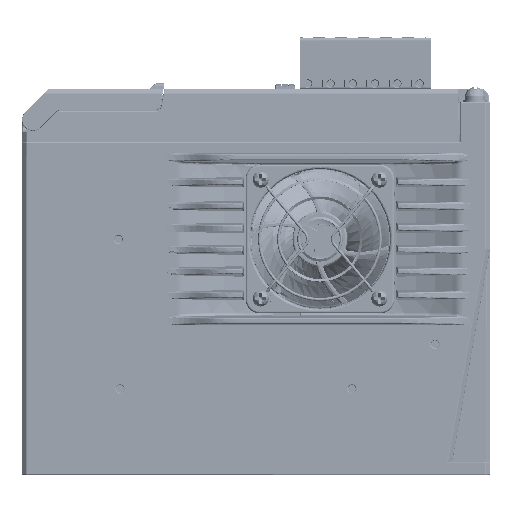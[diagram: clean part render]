
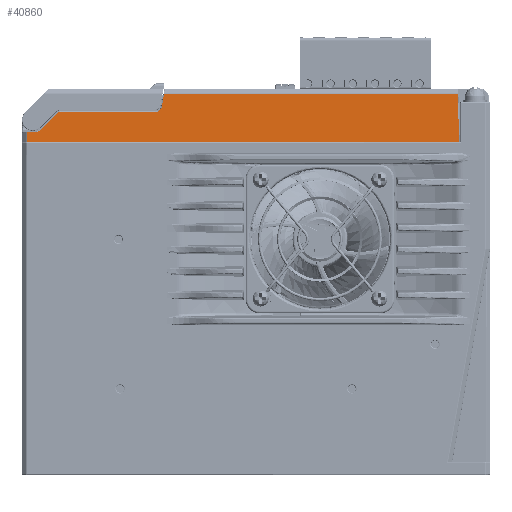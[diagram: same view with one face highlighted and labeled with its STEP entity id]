
A CAD part, left-side view. The second image highlights one B-rep face of the part: STEP entity #40860.
In plain terms, the highlighted planar face has unit normal (-1, 0, 0.026).
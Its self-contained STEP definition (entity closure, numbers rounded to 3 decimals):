
#8912 = ORIENTED_EDGE ( 'NONE', *, *, #106179, .F. ) ;
#9690 = DIRECTION ( 'NONE',  ( 0., -1., 0. ) ) ;
#12264 = CARTESIAN_POINT ( 'NONE',  ( -26.727, 32.851, 57.426 ) ) ;
#15686 = CARTESIAN_POINT ( 'NONE',  ( -26.733, 65.774, 57.205 ) ) ;
#17641 = VECTOR ( 'NONE', #197581, 1000. ) ;
#17929 = EDGE_CURVE ( 'NONE', #179877, #85501, #36177, .T. ) ;
#21272 = DIRECTION ( 'NONE',  ( 1., 0., -0.026 ) ) ;
#21342 = VERTEX_POINT ( 'NONE', #15686 ) ;
#21697 = CARTESIAN_POINT ( 'NONE',  ( -26.894, 72.678, 51.046 ) ) ;
#22021 = CARTESIAN_POINT ( 'NONE',  ( -26.97, 77.096, 48.134 ) ) ;
#25344 = B_SPLINE_CURVE_WITH_KNOTS ( 'NONE', 3,
 ( #165408, #122587, #208192, #80755 ),
 .UNSPECIFIED., .F., .F.,
 ( 4, 4 ),
 ( 0., 1. ),
 .UNSPECIFIED. ) ;
#28234 = B_SPLINE_CURVE_WITH_KNOTS ( 'NONE', 3,
 ( #21697, #43076, #170328, #64307 ),
 .UNSPECIFIED., .F., .F.,
 ( 4, 4 ),
 ( 0., 1. ),
 .UNSPECIFIED. ) ;
#28334 = ORIENTED_EDGE ( 'NONE', *, *, #79251, .T. ) ;
#31622 = CARTESIAN_POINT ( 'NONE',  ( -26.714, -68.064, 57.919 ) ) ;
#33643 = CARTESIAN_POINT ( 'NONE',  ( -26.715, 32.234, 57.885 ) ) ;
#36177 = B_SPLINE_CURVE_WITH_KNOTS ( 'NONE', 3,
 ( #96776, #266805, #222318, #12264, #160893, #33643, #182280, #54930, #203689, #76243 ),
 .UNSPECIFIED., .F., .F.,
 ( 4, 2, 2, 2, 4 ),
 ( 0., 0.25, 0.5, 0.75, 1. ),
 .UNSPECIFIED. ) ;
#38591 = CARTESIAN_POINT ( 'NONE',  ( -26.911, 74.234, 50.402 ) ) ;
#40860 = ADVANCED_FACE ( 'NONE', ( #225650 ), #148499, .F. ) ;
#43076 = CARTESIAN_POINT ( 'NONE',  ( -26.845, 70.801, 52.924 ) ) ;
#45972 = CARTESIAN_POINT ( 'NONE',  ( -26.571, 4.388, 63.379 ) ) ;
#47950 = CARTESIAN_POINT ( 'NONE',  ( -26.911, 4.388, 50.402 ) ) ;
#54930 = CARTESIAN_POINT ( 'NONE',  ( -26.698, 31.811, 58.527 ) ) ;
#60625 = ORIENTED_EDGE ( 'NONE', *, *, #152101, .F. ) ;
#64307 = CARTESIAN_POINT ( 'NONE',  ( -26.747, 67.046, 56.678 ) ) ;
#64615 = CARTESIAN_POINT ( 'NONE',  ( -26.941, 77.066, 49.268 ) ) ;
#74049 = LINE ( 'NONE', #47950, #17641 ) ;
#74188 = CARTESIAN_POINT ( 'NONE',  ( -27., -68.35, 47. ) ) ;
#76243 = CARTESIAN_POINT ( 'NONE',  ( -26.685, 31.678, 59.023 ) ) ;
#79251 = EDGE_CURVE ( 'NONE', #161984, #120466, #135587, .T. ) ;
#80755 = CARTESIAN_POINT ( 'NONE',  ( -26.571, 30.91, 63.379 ) ) ;
#81574 =( BOUNDED_CURVE ( )  B_SPLINE_CURVE ( 3, ( #214251, #108251, #256916, #129553 ),
 .UNSPECIFIED., .F., .F. ) 
 B_SPLINE_CURVE_WITH_KNOTS ( ( 4, 4 ),
 ( 0., 1. ),
 .UNSPECIFIED. ) 
 CURVE ( )  GEOMETRIC_REPRESENTATION_ITEM ( )  RATIONAL_B_SPLINE_CURVE ( ( 1., 0.949, 0.949, 1. ) ) 
 REPRESENTATION_ITEM ( '' )  );
#83600 = ORIENTED_EDGE ( 'NONE', *, *, #237162, .F. ) ;
#84934 = EDGE_CURVE ( 'NONE', #171905, #273305, #28234, .T. ) ;
#85501 = VERTEX_POINT ( 'NONE', #167415 ) ;
#85767 = VECTOR ( 'NONE', #9690, 1000. ) ;
#87626 = ORIENTED_EDGE ( 'NONE', *, *, #84934, .F. ) ;
#87708 = CARTESIAN_POINT ( 'NONE',  ( -27., -68.35, 47. ) ) ;
#96375 = EDGE_CURVE ( 'NONE', #161984, #233753, #206375, .T. ) ;
#96776 = CARTESIAN_POINT ( 'NONE',  ( -26.733, 33.844, 57.205 ) ) ;
#102635 = CARTESIAN_POINT ( 'NONE',  ( -26.909, 73.658, 50.459 ) ) ;
#106179 = EDGE_CURVE ( 'NONE', #273305, #21342, #81574, .T. ) ;
#108251 = CARTESIAN_POINT ( 'NONE',  ( -26.738, 66.704, 57.02 ) ) ;
#110778 = ORIENTED_EDGE ( 'NONE', *, *, #17929, .F. ) ;
#113403 = CARTESIAN_POINT ( 'NONE',  ( -26.733, 33.844, 57.205 ) ) ;
#116108 = CARTESIAN_POINT ( 'NONE',  ( -26.571, -67.921, 63.379 ) ) ;
#120466 = VERTEX_POINT ( 'NONE', #87708 ) ;
#122587 = CARTESIAN_POINT ( 'NONE',  ( -26.647, 31.422, 60.475 ) ) ;
#123012 = CARTESIAN_POINT ( 'NONE',  ( -26.911, 73.946, 50.402 ) ) ;
#123922 = CARTESIAN_POINT ( 'NONE',  ( -26.899, 72.882, 50.843 ) ) ;
#127513 = CARTESIAN_POINT ( 'NONE',  ( -26.571, 30.91, 63.379 ) ) ;
#127857 = ORIENTED_EDGE ( 'NONE', *, *, #257891, .F. ) ;
#129553 = CARTESIAN_POINT ( 'NONE',  ( -26.733, 65.774, 57.205 ) ) ;
#131628 = VERTEX_POINT ( 'NONE', #163269 ) ;
#135587 = LINE ( 'NONE', #242917, #85767 ) ;
#142504 = CARTESIAN_POINT ( 'NONE',  ( -26.747, 67.046, 56.678 ) ) ;
#148499 = PLANE ( 'NONE',  #224913 ) ;
#149870 = DIRECTION ( 'NONE',  ( 0., -1., 0. ) ) ;
#152101 = EDGE_CURVE ( 'NONE', #21342, #179877, #239308, .T. ) ;
#152819 = VERTEX_POINT ( 'NONE', #275614 ) ;
#160893 = CARTESIAN_POINT ( 'NONE',  ( -26.724, 32.626, 57.556 ) ) ;
#161984 = VERTEX_POINT ( 'NONE', #179452 ) ;
#163269 = CARTESIAN_POINT ( 'NONE',  ( -26.911, 74.234, 50.402 ) ) ;
#165408 = CARTESIAN_POINT ( 'NONE',  ( -26.685, 31.678, 59.023 ) ) ;
#167415 = CARTESIAN_POINT ( 'NONE',  ( -26.685, 31.678, 59.023 ) ) ;
#169881 = DIRECTION ( 'NONE',  ( 0., -1., 0. ) ) ;
#170328 = CARTESIAN_POINT ( 'NONE',  ( -26.796, 68.924, 54.801 ) ) ;
#170639 = CARTESIAN_POINT ( 'NONE',  ( -27., 77.125, 47. ) ) ;
#171905 = VERTEX_POINT ( 'NONE', #262910 ) ;
#173267 = DIRECTION ( 'NONE',  ( 0., -1., 0. ) ) ;
#176857 = EDGE_CURVE ( 'NONE', #152819, #120466, #260045, .T. ) ;
#179452 = CARTESIAN_POINT ( 'NONE',  ( -27., 77.125, 47. ) ) ;
#179877 = VERTEX_POINT ( 'NONE', #113403 ) ;
#182280 = CARTESIAN_POINT ( 'NONE',  ( -26.71, 32.067, 58.084 ) ) ;
#183150 = CARTESIAN_POINT ( 'NONE',  ( -26.911, 77.036, 50.402 ) ) ;
#186467 = ORIENTED_EDGE ( 'NONE', *, *, #176857, .F. ) ;
#189939 = EDGE_CURVE ( 'NONE', #131628, #171905, #208214, .T. ) ;
#197581 = DIRECTION ( 'NONE',  ( 0., -1., 0. ) ) ;
#201672 = CARTESIAN_POINT ( 'NONE',  ( -26.857, -68.207, 52.46 ) ) ;
#203689 = CARTESIAN_POINT ( 'NONE',  ( -26.692, 31.722, 58.771 ) ) ;
#206375 = B_SPLINE_CURVE_WITH_KNOTS ( 'NONE', 3,
 ( #170639, #22021, #64615, #213455 ),
 .UNSPECIFIED., .F., .F.,
 ( 4, 4 ),
 ( 0., 1. ),
 .UNSPECIFIED. ) ;
#206403 = VECTOR ( 'NONE', #173267, 1000. ) ;
#208192 = CARTESIAN_POINT ( 'NONE',  ( -26.609, 31.166, 61.927 ) ) ;
#208214 = B_SPLINE_CURVE_WITH_KNOTS ( 'NONE', 3,
 ( #38591, #123012, #102635, #251313, #123922, #272714 ),
 .UNSPECIFIED., .F., .F.,
 ( 4, 2, 4 ),
 ( 0., 0.5, 1. ),
 .UNSPECIFIED. ) ;
#213455 = CARTESIAN_POINT ( 'NONE',  ( -26.911, 77.036, 50.402 ) ) ;
#214251 = CARTESIAN_POINT ( 'NONE',  ( -26.747, 67.046, 56.678 ) ) ;
#217414 = ORIENTED_EDGE ( 'NONE', *, *, #189939, .F. ) ;
#222318 = CARTESIAN_POINT ( 'NONE',  ( -26.732, 33.332, 57.25 ) ) ;
#224913 = AXIS2_PLACEMENT_3D ( 'NONE', #254474, #21272, #169881 ) ;
#225650 = FACE_OUTER_BOUND ( 'NONE', #235663, .T. ) ;
#232642 = VECTOR ( 'NONE', #149870, 1000. ) ;
#233753 = VERTEX_POINT ( 'NONE', #183150 ) ;
#234548 = CARTESIAN_POINT ( 'NONE',  ( -26.733, 4.388, 57.205 ) ) ;
#235663 = EDGE_LOOP ( 'NONE', ( #83600, #110778, #60625, #8912, #87626, #217414, #267208, #271929, #28334, #186467, #127857 ) ) ;
#237162 = EDGE_CURVE ( 'NONE', #85501, #272136, #25344, .T. ) ;
#239308 = LINE ( 'NONE', #234548, #232642 ) ;
#242917 = CARTESIAN_POINT ( 'NONE',  ( -27., 0., 47. ) ) ;
#251313 = CARTESIAN_POINT ( 'NONE',  ( -26.904, 73.126, 50.68 ) ) ;
#254474 = CARTESIAN_POINT ( 'NONE',  ( -26.563, 80.035, 63.706 ) ) ;
#256916 = CARTESIAN_POINT ( 'NONE',  ( -26.733, 66.257, 57.205 ) ) ;
#257891 = EDGE_CURVE ( 'NONE', #272136, #152819, #269522, .T. ) ;
#260045 = B_SPLINE_CURVE_WITH_KNOTS ( 'NONE', 3,
 ( #116108, #31622, #201672, #74188 ),
 .UNSPECIFIED., .F., .F.,
 ( 4, 4 ),
 ( 0., 1. ),
 .UNSPECIFIED. ) ;
#262910 = CARTESIAN_POINT ( 'NONE',  ( -26.894, 72.678, 51.046 ) ) ;
#266805 = CARTESIAN_POINT ( 'NONE',  ( -26.733, 33.588, 57.205 ) ) ;
#267208 = ORIENTED_EDGE ( 'NONE', *, *, #267384, .F. ) ;
#267384 = EDGE_CURVE ( 'NONE', #233753, #131628, #74049, .T. ) ;
#269522 = LINE ( 'NONE', #45972, #206403 ) ;
#271929 = ORIENTED_EDGE ( 'NONE', *, *, #96375, .F. ) ;
#272136 = VERTEX_POINT ( 'NONE', #127513 ) ;
#272714 = CARTESIAN_POINT ( 'NONE',  ( -26.894, 72.678, 51.046 ) ) ;
#273305 = VERTEX_POINT ( 'NONE', #142504 ) ;
#275614 = CARTESIAN_POINT ( 'NONE',  ( -26.571, -67.921, 63.379 ) ) ;
